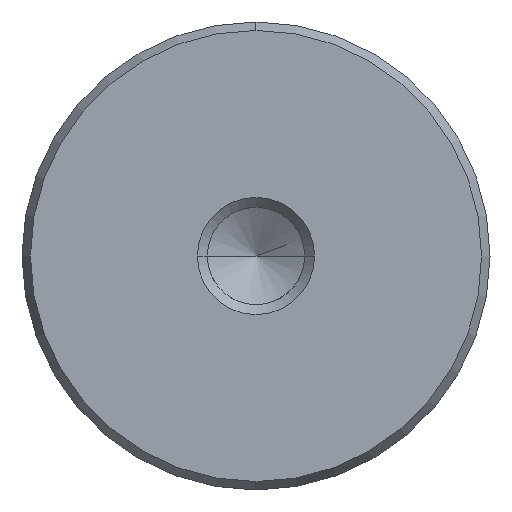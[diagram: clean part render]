
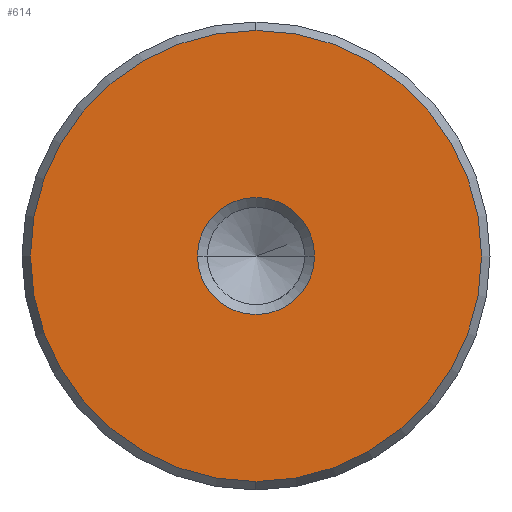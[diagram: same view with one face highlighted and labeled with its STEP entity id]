
A CAD part, left-side view. The second image highlights one B-rep face of the part: STEP entity #614.
In plain terms, the highlighted planar face has unit normal (-1, 0, 0).
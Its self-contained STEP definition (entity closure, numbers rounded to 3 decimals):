
#528=CARTESIAN_POINT('Vertex',(0.,0.,-15.423)) ;
#531=CARTESIAN_POINT('Axis2P3D Location',(0.,0.,0.)) ;
#535=CARTESIAN_POINT('Vertex',(0.,15.423,0.)) ;
#538=CARTESIAN_POINT('Axis2P3D Location',(0.,0.,0.)) ;
#542=CARTESIAN_POINT('Vertex',(0.,0.,15.423)) ;
#564=CARTESIAN_POINT('Axis2P3D Location',(0.,0.,0.)) ;
#568=CARTESIAN_POINT('Vertex',(0.,-15.423,0.)) ;
#571=CARTESIAN_POINT('Axis2P3D Location',(0.,0.,0.)) ;
#585=CARTESIAN_POINT('Axis2P3D Location',(0.,0.,0.)) ;
#596=CARTESIAN_POINT('Axis2P3D Location',(0.,0.,0.)) ;
#600=CARTESIAN_POINT('Vertex',(0.,4.,0.)) ;
#602=CARTESIAN_POINT('Vertex',(0.,-4.,0.)) ;
#605=CARTESIAN_POINT('Axis2P3D Location',(0.,0.,0.)) ;
#532=DIRECTION('Axis2P3D Direction',(1.,0.,-0.)) ;
#539=DIRECTION('Axis2P3D Direction',(1.,0.,-0.)) ;
#565=DIRECTION('Axis2P3D Direction',(1.,0.,-0.)) ;
#572=DIRECTION('Axis2P3D Direction',(1.,0.,-0.)) ;
#586=DIRECTION('Axis2P3D Direction',(1.,0.,-0.)) ;
#587=DIRECTION('Axis2P3D XDirection',(-0.,0.,-1.)) ;
#597=DIRECTION('Axis2P3D Direction',(1.,0.,-0.)) ;
#606=DIRECTION('Axis2P3D Direction',(1.,0.,-0.)) ;
#533=AXIS2_PLACEMENT_3D('Circle Axis2P3D',#531,#532,$) ;
#540=AXIS2_PLACEMENT_3D('Circle Axis2P3D',#538,#539,$) ;
#566=AXIS2_PLACEMENT_3D('Circle Axis2P3D',#564,#565,$) ;
#573=AXIS2_PLACEMENT_3D('Circle Axis2P3D',#571,#572,$) ;
#588=AXIS2_PLACEMENT_3D('Plane Axis2P3D',#585,#586,#587) ;
#598=AXIS2_PLACEMENT_3D('Circle Axis2P3D',#596,#597,$) ;
#607=AXIS2_PLACEMENT_3D('Circle Axis2P3D',#605,#606,$) ;
#591=ORIENTED_EDGE('',*,*,#537,.F.) ;
#592=ORIENTED_EDGE('',*,*,#575,.F.) ;
#593=ORIENTED_EDGE('',*,*,#570,.F.) ;
#594=ORIENTED_EDGE('',*,*,#544,.F.) ;
#611=ORIENTED_EDGE('',*,*,#604,.T.) ;
#612=ORIENTED_EDGE('',*,*,#609,.T.) ;
#613=FACE_BOUND('',#610,.T.) ;
#614=ADVANCED_FACE('720-32x180',(#595,#613),#589,.F.) ;
#534=CIRCLE('generated circle',#533,15.423) ;
#541=CIRCLE('generated circle',#540,15.423) ;
#567=CIRCLE('generated circle',#566,15.423) ;
#574=CIRCLE('generated circle',#573,15.423) ;
#599=CIRCLE('generated circle',#598,4.) ;
#608=CIRCLE('generated circle',#607,4.) ;
#537=EDGE_CURVE('',#529,#536,#534,.T.) ;
#544=EDGE_CURVE('',#536,#543,#541,.T.) ;
#570=EDGE_CURVE('',#543,#569,#567,.T.) ;
#575=EDGE_CURVE('',#569,#529,#574,.T.) ;
#604=EDGE_CURVE('',#601,#603,#599,.T.) ;
#609=EDGE_CURVE('',#603,#601,#608,.T.) ;
#590=EDGE_LOOP('',(#591,#592,#593,#594)) ;
#610=EDGE_LOOP('',(#611,#612)) ;
#595=FACE_OUTER_BOUND('',#590,.T.) ;
#589=PLANE('Plane',#588) ;
#529=VERTEX_POINT('',#528) ;
#536=VERTEX_POINT('',#535) ;
#543=VERTEX_POINT('',#542) ;
#569=VERTEX_POINT('',#568) ;
#601=VERTEX_POINT('',#600) ;
#603=VERTEX_POINT('',#602) ;
